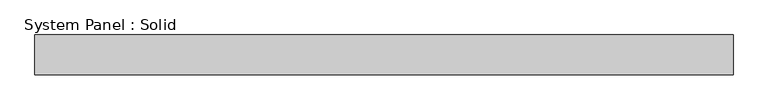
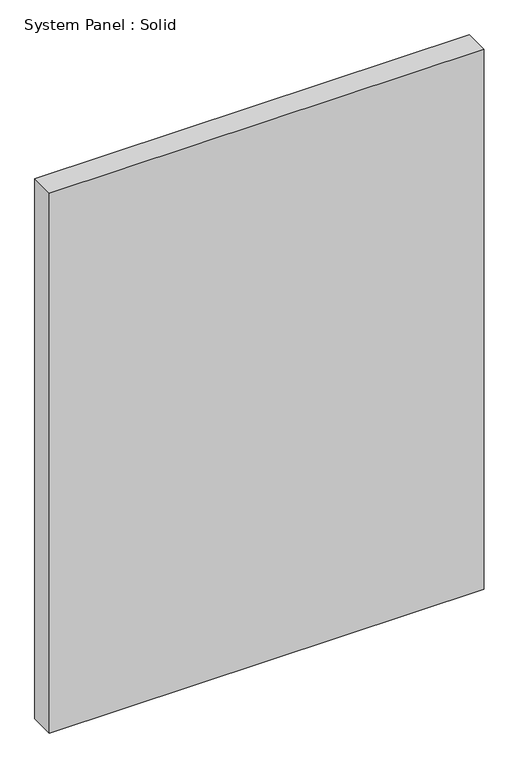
"""IFC4 building model written with IfcOpenShell, lengths in millimetres: plate geometry, System Panel : Solid."""

from ifc_helpers import new_model, si_unit, origin, origin_with_axes, place, context, project, spatial, polyline, outline, extrude, source, transform, mapped, element, save


def system_panel_solid_e887e8ce(model_context):
    return source(origin(), model_context, "Body", "SweptSolid", [
        extrude(outline(polyline([(557.2124998, -19.05), (-557.2124998, -19.05), (-557.2124998, 44.45), (557.2124998, 44.45), (557.2124998, -19.05)])), origin_with_axes(), (0.0, 0.0, 1.0), 1462.6166667),
    ])


if __name__ == "__main__":
    model = new_model("IFC4")
    model_context = context("Model", 3, world=origin())
    ifc_project = project(units=[si_unit("LENGTHUNIT", "METRE", prefix="MILLI")], contexts=[model_context])
    site = spatial("IfcSite", under=ifc_project)
    building = spatial("IfcBuilding", under=site)
    placement = place(None, origin())
    system_panel_solid_shape = system_panel_solid_e887e8ce(model_context)
    element("IfcPlate", 1, ObjectType="System Panel : Solid", at=placement, inside=building, context=model_context, shape_type="MappedRepresentation", body=[
        mapped(system_panel_solid_shape, transform((0.0, 0.0, 0.0), x_axis=(1.0, 0.0, 0.0), y_axis=(0.0, 1.0, 0.0), z_axis=(0.0, 0.0, 1.0))),
    ])
    save(model, "model.ifc")
